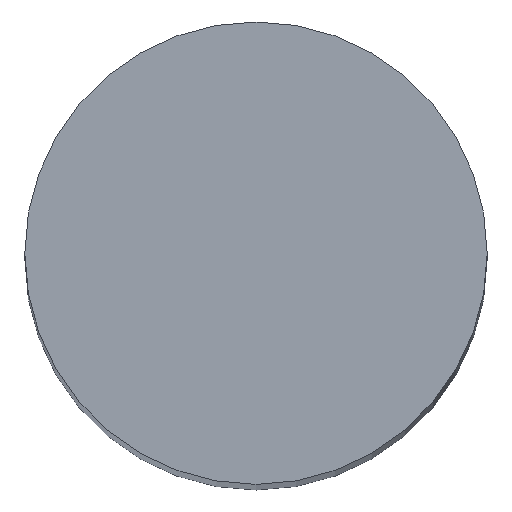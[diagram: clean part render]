
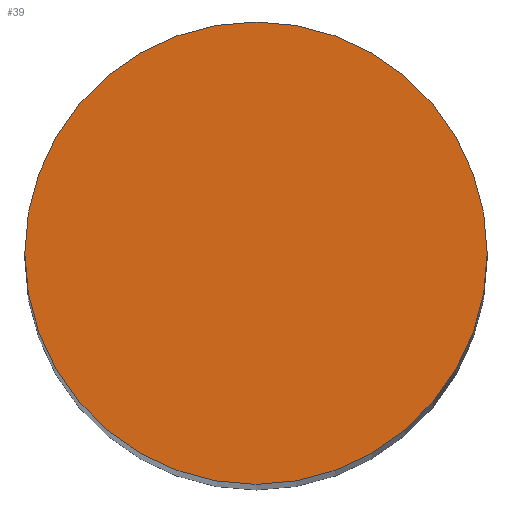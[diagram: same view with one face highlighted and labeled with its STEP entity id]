
A CAD part, top view. The second image highlights one B-rep face of the part: STEP entity #39.
In plain terms, the highlighted planar face has unit normal (0, 0, 1).
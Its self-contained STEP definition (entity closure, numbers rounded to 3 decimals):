
#18=FACE_OUTER_BOUND('',#21,.T.);
#21=EDGE_LOOP('',(#31));
#24=CIRCLE('',#57,3.933);
#26=VERTEX_POINT('',#76);
#28=EDGE_CURVE('',#26,#26,#24,.T.);
#31=ORIENTED_EDGE('',*,*,#28,.F.);
#37=PLANE('',#56);
#39=ADVANCED_FACE('',(#18),#37,.T.);
#56=AXIS2_PLACEMENT_3D('',#75,#63,#64);
#57=AXIS2_PLACEMENT_3D('',#77,#65,#66);
#63=DIRECTION('center_axis',(0.,0.,1.));
#64=DIRECTION('ref_axis',(-1.,0.,0.));
#65=DIRECTION('center_axis',(0.,0.,-1.));
#66=DIRECTION('ref_axis',(-1.,0.,0.));
#75=CARTESIAN_POINT('Origin',(0.,0.,55.));
#76=CARTESIAN_POINT('',(3.933,0.,55.));
#77=CARTESIAN_POINT('Origin',(0.,0.,55.));
